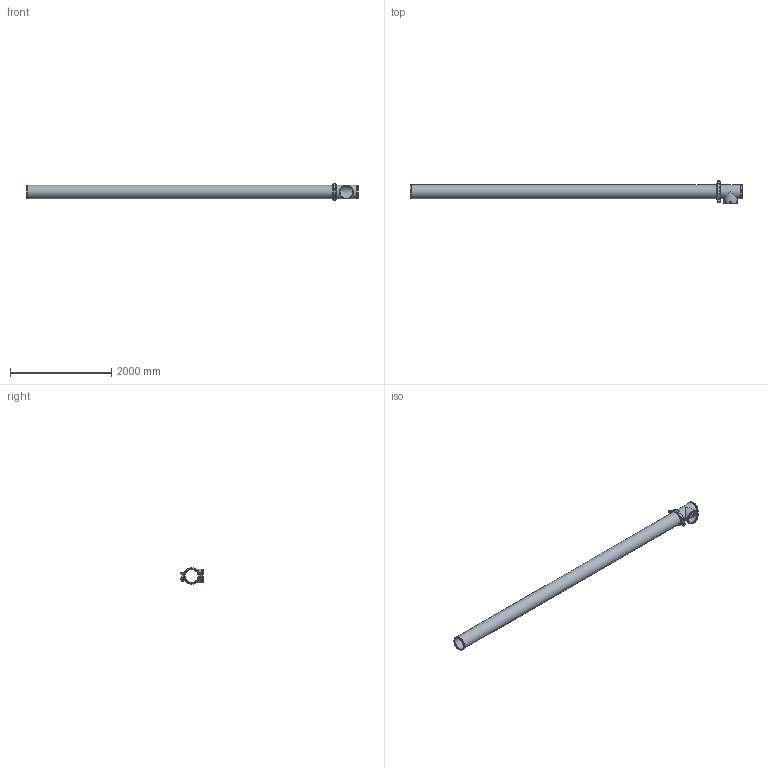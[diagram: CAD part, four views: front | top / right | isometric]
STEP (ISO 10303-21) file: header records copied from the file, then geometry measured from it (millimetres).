
FILE_DESCRIPTION(/* description */ ('VIC LONG RUN FITTING No R12 (OGS)','CAx-IF Rec.Pracs.---Representation and Presentation of Product Manufacturing Information (PMI)---4.0---2014-10-13'),/* implementation_level */ '2;1');
FILE_NAME(/* name */ 'C:\Users\Vjadhav\AppData\Roaming\Autodesk\ApplicationPlugins\Back Up\Victaulic_IPS_Long Run Fittings_No R12 (OGS)\Victaulic_IPS_Long Run Fittings_No R12 (OGS)_10 (250).stp',/* time_stamp */ '2020-10-06T18:49:17+05:00',/* author */ ('Vjadhav'),/* organization */ ('Victaulic'),/* preprocessor_version */ 'ST-DEVELOPER v17.2',/* originating_system */ 'Autodesk Inventor 2019',/* authorisation */ '');
FILE_SCHEMA (('AP242_MANAGED_MODEL_BASED_3D_ENGINEERING_MIM_LF { 1 0 10303 442 1 1 4 }'));
Length unit declared in the file: inch
Products named in the file (4): R12-10.0; 020-10.0; 107N-10.0; Pipe_R10-10.0
Assembly tree (3 placements, depth 2):
  R12-10.0
    020-10.0
    107N-10.0
    Pipe_R10-10.0
Bounding box: 6558.28 x 446.15 x 330.2 mm (x, y, z)
Volume: 52836060.3 mm3; surface area: 11265395.9 mm2
Topology: 3 solids, 3 shells, 150 faces, 389 edges, 264 vertices
Faces by surface type: plane 65, cylinder 63, bspline 16, cone 4, sphere 2
Full cylindrical faces by diameter (mm): 22.225 x4, 37.694 x2, 254.508 x3, 260.35 x1, 268.275 x5, 273.05 x10
Entity records: 5603 total; most frequent: CARTESIAN_POINT 1458, DIRECTION 847, ORIENTED_EDGE 778, EDGE_CURVE 389, AXIS2_PLACEMENT_3D 333, VERTEX_POINT 264, EDGE_LOOP 181, LINE 181
